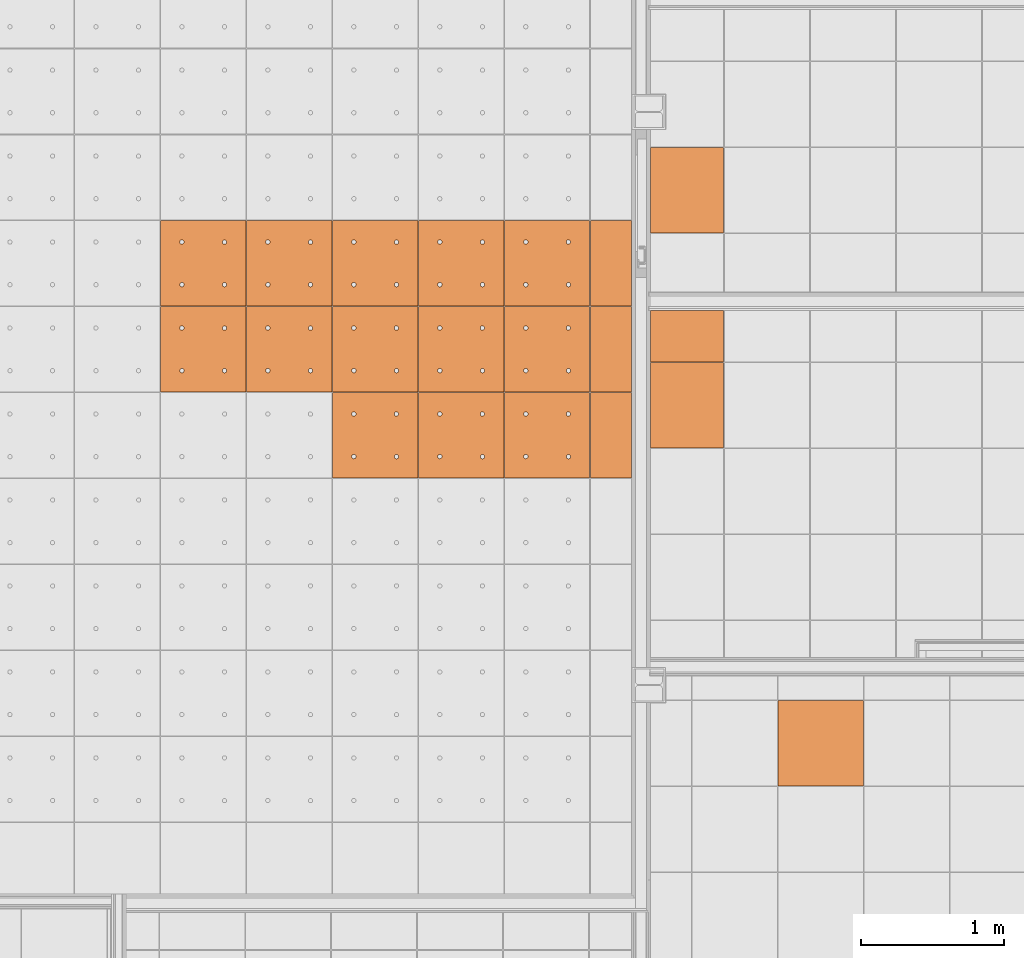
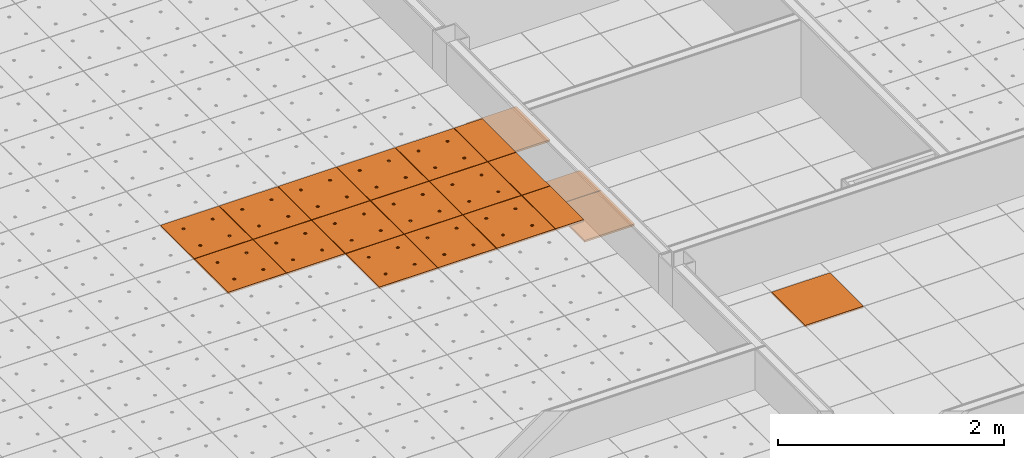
# One storey, part 283 of 338: 20 proxies, 4 elements without a shape of their own.
"""IFC2X3 building model written with IfcOpenShell, lengths in millimetres."""

from ifc_helpers import new_model, entity, si_unit, converted_unit, derived_unit, money_unit, direction, frame, origin_with_axes, place, context, subcontext, project, spatial, faceted_brep, source, transform, mapped, material, type_object, type_shapes, element, aggregate, save


model = new_model("IFC2X3")

# Units and contexts
model_context = context("Model", 3, precision=0.01, world=origin_with_axes(), true_north=direction((0.0, 1.0)))
plan_context = context("Plan", 3, precision=0.01, world=origin_with_axes(), true_north=direction((0.0, 1.0)))
body_context = subcontext(model_context, "Body", "Model", "MODEL_VIEW")
ifc_project = project(units=[si_unit("LENGTHUNIT", "METRE", prefix="MILLI"), si_unit("AREAUNIT", "SQUARE_METRE"), si_unit("VOLUMEUNIT", "CUBIC_METRE"), converted_unit("PLANEANGLEUNIT", "DEGREE", entity("IfcPlaneAngleMeasure", 0.0174532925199), si_unit("PLANEANGLEUNIT", "RADIAN"), dimensions=[0, 0, 0, 0, 0, 0, 0]), money_unit("EUR"), converted_unit("TIMEUNIT", "Year", entity("IfcTimeMeasure", 31556926.0), si_unit("TIMEUNIT", "SECOND"), dimensions=[0, 0, 1, 0, 0, 0, 0]), si_unit("MASSUNIT", "GRAM", prefix="KILO"), si_unit("THERMODYNAMICTEMPERATUREUNIT", "DEGREE_CELSIUS"), si_unit("LUMINOUSINTENSITYUNIT", "LUMEN"), si_unit("ENERGYUNIT", "JOULE", prefix="MEGA"), derived_unit("THERMALCONDUCTANCEUNIT", [(si_unit("POWERUNIT", "WATT"), 1), (si_unit("LENGTHUNIT", "METRE"), -1), (si_unit("THERMODYNAMICTEMPERATUREUNIT", "KELVIN"), -1)]), derived_unit("SPECIFICHEATCAPACITYUNIT", [(si_unit("ENERGYUNIT", "JOULE"), 1), (si_unit("MASSUNIT", "GRAM", prefix="KILO"), -1), (si_unit("THERMODYNAMICTEMPERATUREUNIT", "KELVIN"), -1)]), derived_unit("MASSDENSITYUNIT", [(si_unit("MASSUNIT", "GRAM", prefix="KILO"), 1), (si_unit("VOLUMEUNIT", "CUBIC_METRE"), -1)])], contexts=[model_context, plan_context])

# Site, building, storey
site_placement = place(None, origin_with_axes())
site = spatial("IfcSite", under=ifc_project, at=site_placement, Name="Fortuinstraat Woensdrecht", CompositionType="ELEMENT")
building_placement = place(site_placement, origin_with_axes())
building = spatial("IfcBuilding", under=site, at=building_placement, Name="IKC Fortuna", CompositionType="ELEMENT")
storey_placement = place(building_placement, origin_with_axes())
storey = spatial("IfcBuildingStorey", under=building, at=storey_placement, Name="00 begane grond", CompositionType="ELEMENT", Elevation=0.0)

# Covering, proxies
covering_type = type_object("IfcCoveringType", Name="Curtain Wall Type", PredefinedType="CEILING")
covering_1_placement = place(storey_placement, frame((15059.4416165, 34009.703821, 3210.0), z_axis=(0.0, 0.0, 1.0), x_axis=(1.0, 0.0, 0.0)))
covering_1 = element("IfcCovering", 1, at=covering_1_placement, inside=storey, type_object=covering_type, Name="45_Plafondafwerking_P01", PredefinedType="CEILING")
ifc_material = material(Name="Gipsplaat")
building_element_proxy_type_1 = type_object("IfcBuildingElementProxyType", Name="Distinct Panel 600 x 600 x 20", PredefinedType="NOTDEFINED")
shared_shape_1 = source(origin_with_axes(), body_context, "Body", "Brep", [
    faceted_brep([(2.49999999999, 2.49999999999, -10.0), (300.0, 2.49999999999, -10.0), (300.0, 2.49999999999, 10.0), (2.49999999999, 2.49999999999, 10.0), (2.49999999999, 300.0, -10.0), (2.49999999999, 597.5, -10.0), (300.0, 597.5, -10.0), (597.5, 597.5, -10.0), (597.5, 300.0, -10.0), (597.5, 2.49999999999, -10.0), (166.25, 450.06232995, -10.0), (165.79423259, 452.64711538, -10.0), (164.896546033, 455.11348892, -10.0), (163.58421608, 457.38651108, -10.0), (161.897117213, 459.39711721, -10.0), (159.886511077, 461.08421608, -10.0), (157.613488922, 462.39654603, -10.0), (155.147115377, 463.29423259, -10.0), (152.562329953, 463.75, -10.0), (149.937670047, 463.75, -10.0), (147.352884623, 463.29423259, -10.0), (144.886511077, 462.39654603, -10.0), (142.613488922, 461.08421608, -10.0), (140.602882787, 459.39711721, -10.0), (138.91578392, 457.38651108, -10.0), (137.603453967, 455.11348892, -10.0), (136.705767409, 452.64711538, -10.0), (136.25, 450.06232995, -10.0), (136.25, 448.75, -10.0), (136.25, 447.43767005, -10.0), (136.705767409, 444.85288462, -10.0), (137.603453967, 442.38651108, -10.0), (138.91578392, 440.11348892, -10.0), (140.602882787, 438.10288279, -10.0), (142.613488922, 436.41578392, -10.0), (144.886511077, 435.10345397, -10.0), (147.352884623, 434.20576741, -10.0), (149.937670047, 433.75, -10.0), (152.562329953, 433.75, -10.0), (155.147115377, 434.20576741, -10.0), (157.613488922, 435.10345397, -10.0), (159.886511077, 436.41578392, -10.0), (161.897117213, 438.10288279, -10.0), (163.58421608, 440.11348892, -10.0), (164.896546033, 442.38651108, -10.0), (165.79423259, 444.85288462, -10.0), (166.25, 447.43767005, -10.0), (463.75, 450.06232995, -10.0), (463.29423259, 452.64711538, -10.0), (462.396546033, 455.11348892, -10.0), (461.08421608, 457.38651108, -10.0), (459.397117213, 459.39711721, -10.0), (457.386511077, 461.08421608, -10.0), (455.113488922, 462.39654603, -10.0), (452.647115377, 463.29423259, -10.0), (450.062329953, 463.75, -10.0), (447.437670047, 463.75, -10.0), (444.852884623, 463.29423259, -10.0), (442.386511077, 462.39654603, -10.0), (440.113488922, 461.08421608, -10.0), (438.102882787, 459.39711721, -10.0), (436.41578392, 457.38651108, -10.0), (435.103453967, 455.11348892, -10.0), (434.205767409, 452.64711538, -10.0), (433.75, 450.06232995, -10.0), (433.75, 448.75, -10.0), (433.75, 447.43767005, -10.0), (434.205767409, 444.85288462, -10.0), (435.103453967, 442.38651108, -10.0), (436.41578392, 440.11348892, -10.0), (438.102882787, 438.10288279, -10.0), (440.113488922, 436.41578392, -10.0), (442.386511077, 435.10345397, -10.0), (444.852884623, 434.20576741, -10.0), (447.437670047, 433.75, -10.0), (450.062329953, 433.75, -10.0), (452.647115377, 434.20576741, -10.0), (455.113488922, 435.10345397, -10.0), (457.386511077, 436.41578392, -10.0), (459.397117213, 438.10288279, -10.0), (461.08421608, 440.11348892, -10.0), (462.396546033, 442.38651108, -10.0), (463.29423259, 444.85288462, -10.0), (463.75, 447.43767005, -10.0), (463.75, 152.56232995, -10.0), (463.29423259, 155.14711538, -10.0), (462.396546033, 157.61348892, -10.0), (461.08421608, 159.88651108, -10.0), (459.397117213, 161.89711721, -10.0), (457.386511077, 163.58421608, -10.0), (455.113488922, 164.89654603, -10.0), (452.647115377, 165.79423259, -10.0), (450.062329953, 166.25, -10.0), (447.437670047, 166.25, -10.0), (444.852884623, 165.79423259, -10.0), (442.386511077, 164.89654603, -10.0), (440.113488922, 163.58421608, -10.0), (438.102882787, 161.89711721, -10.0), (436.41578392, 159.88651108, -10.0), (435.103453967, 157.61348892, -10.0), (434.205767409, 155.14711538, -10.0), (433.75, 152.56232995, -10.0), (433.75, 151.25, -10.0), (433.75, 149.93767005, -10.0), (434.205767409, 147.35288462, -10.0), (435.103453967, 144.88651108, -10.0), (436.41578392, 142.61348892, -10.0), (438.102882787, 140.60288279, -10.0), (440.113488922, 138.91578392, -10.0), (442.386511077, 137.60345397, -10.0), (444.852884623, 136.70576741, -10.0), (447.437670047, 136.25, -10.0), (450.062329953, 136.25, -10.0), (452.647115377, 136.70576741, -10.0), (455.113488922, 137.60345397, -10.0), (457.386511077, 138.91578392, -10.0), (459.397117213, 140.60288279, -10.0), (461.08421608, 142.61348892, -10.0), (462.396546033, 144.88651108, -10.0), (463.29423259, 147.35288462, -10.0), (463.75, 149.93767005, -10.0), (166.25, 152.56232995, -10.0), (165.79423259, 155.14711538, -10.0), (164.896546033, 157.61348892, -10.0), (163.58421608, 159.88651108, -10.0), (161.897117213, 161.89711721, -10.0), (159.886511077, 163.58421608, -10.0), (157.613488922, 164.89654603, -10.0), (155.147115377, 165.79423259, -10.0), (152.562329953, 166.25, -10.0), (149.937670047, 166.25, -10.0), (147.352884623, 165.79423259, -10.0), (144.886511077, 164.89654603, -10.0), (142.613488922, 163.58421608, -10.0), (140.602882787, 161.89711721, -10.0), (138.91578392, 159.88651108, -10.0), (137.603453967, 157.61348892, -10.0), (136.705767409, 155.14711538, -10.0), (136.25, 152.56232995, -10.0), (136.25, 151.25, -10.0), (136.25, 149.93767005, -10.0), (136.705767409, 147.35288462, -10.0), (137.603453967, 144.88651108, -10.0), (138.91578392, 142.61348892, -10.0), (140.602882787, 140.60288279, -10.0), (142.613488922, 138.91578392, -10.0), (144.886511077, 137.60345397, -10.0), (147.352884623, 136.70576741, -10.0), (149.937670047, 136.25, -10.0), (152.562329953, 136.25, -10.0), (155.147115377, 136.70576741, -10.0), (157.613488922, 137.60345397, -10.0), (159.886511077, 138.91578392, -10.0), (161.897117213, 140.60288279, -10.0), (163.58421608, 142.61348892, -10.0), (164.896546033, 144.88651108, -10.0), (165.79423259, 147.35288462, -10.0), (166.25, 149.93767005, -10.0), (597.5, 2.49999999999, 10.0), (597.5, 300.0, 10.0), (597.5, 597.5, 10.0), (300.0, 597.5, 10.0), (2.49999999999, 597.5, 10.0), (2.49999999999, 300.0, 10.0), (166.25, 450.06232995, 10.0), (166.25, 447.43767005, 10.0), (165.79423259, 444.85288462, 10.0), (164.896546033, 442.38651108, 10.0), (163.58421608, 440.11348892, 10.0), (161.897117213, 438.10288279, 10.0), (159.886511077, 436.41578392, 10.0), (157.613488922, 435.10345397, 10.0), (155.147115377, 434.20576741, 10.0), (152.562329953, 433.75, 10.0), (149.937670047, 433.75, 10.0), (147.352884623, 434.20576741, 10.0), (144.886511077, 435.10345397, 10.0), (142.613488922, 436.41578392, 10.0), (140.602882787, 438.10288279, 10.0), (138.91578392, 440.11348892, 10.0), (137.603453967, 442.38651108, 10.0), (136.705767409, 444.85288462, 10.0), (136.25, 447.43767005, 10.0), (136.25, 448.75, 10.0), (136.25, 450.06232995, 10.0), (136.705767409, 452.64711538, 10.0), (137.603453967, 455.11348892, 10.0), (138.91578392, 457.38651108, 10.0), (140.602882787, 459.39711721, 10.0), (142.613488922, 461.08421608, 10.0), (144.886511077, 462.39654603, 10.0), (147.352884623, 463.29423259, 10.0), (149.937670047, 463.75, 10.0), (152.562329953, 463.75, 10.0), (155.147115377, 463.29423259, 10.0), (157.613488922, 462.39654603, 10.0), (159.886511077, 461.08421608, 10.0), (161.897117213, 459.39711721, 10.0), (163.58421608, 457.38651108, 10.0), (164.896546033, 455.11348892, 10.0), (165.79423259, 452.64711538, 10.0), (463.75, 450.06232995, 10.0), (463.75, 447.43767005, 10.0), (463.29423259, 444.85288462, 10.0), (462.396546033, 442.38651108, 10.0), (461.08421608, 440.11348892, 10.0), (459.397117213, 438.10288279, 10.0), (457.386511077, 436.41578392, 10.0), (455.113488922, 435.10345397, 10.0), (452.647115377, 434.20576741, 10.0), (450.062329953, 433.75, 10.0), (447.437670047, 433.75, 10.0), (444.852884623, 434.20576741, 10.0), (442.386511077, 435.10345397, 10.0), (440.113488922, 436.41578392, 10.0), (438.102882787, 438.10288279, 10.0), (436.41578392, 440.11348892, 10.0), (435.103453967, 442.38651108, 10.0), (434.205767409, 444.85288462, 10.0), (433.75, 447.43767005, 10.0), (433.75, 448.75, 10.0), (433.75, 450.06232995, 10.0), (434.205767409, 452.64711538, 10.0), (435.103453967, 455.11348892, 10.0), (436.41578392, 457.38651108, 10.0), (438.102882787, 459.39711721, 10.0), (440.113488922, 461.08421608, 10.0), (442.386511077, 462.39654603, 10.0), (444.852884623, 463.29423259, 10.0), (447.437670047, 463.75, 10.0), (450.062329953, 463.75, 10.0), (452.647115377, 463.29423259, 10.0), (455.113488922, 462.39654603, 10.0), (457.386511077, 461.08421608, 10.0), (459.397117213, 459.39711721, 10.0), (461.08421608, 457.38651108, 10.0), (462.396546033, 455.11348892, 10.0), (463.29423259, 452.64711538, 10.0), (463.75, 152.56232995, 10.0), (463.75, 149.93767005, 10.0), (463.29423259, 147.35288462, 10.0), (462.396546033, 144.88651108, 10.0), (461.08421608, 142.61348892, 10.0), (459.397117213, 140.60288279, 10.0), (457.386511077, 138.91578392, 10.0), (455.113488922, 137.60345397, 10.0), (452.647115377, 136.70576741, 10.0), (450.062329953, 136.25, 10.0), (447.437670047, 136.25, 10.0), (444.852884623, 136.70576741, 10.0), (442.386511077, 137.60345397, 10.0), (440.113488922, 138.91578392, 10.0), (438.102882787, 140.60288279, 10.0), (436.41578392, 142.61348892, 10.0), (435.103453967, 144.88651108, 10.0), (434.205767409, 147.35288462, 10.0), (433.75, 149.93767005, 10.0), (433.75, 151.25, 10.0), (433.75, 152.56232995, 10.0), (434.205767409, 155.14711538, 10.0), (435.103453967, 157.61348892, 10.0), (436.41578392, 159.88651108, 10.0), (438.102882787, 161.89711721, 10.0), (440.113488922, 163.58421608, 10.0), (442.386511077, 164.89654603, 10.0), (444.852884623, 165.79423259, 10.0), (447.437670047, 166.25, 10.0), (450.062329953, 166.25, 10.0), (452.647115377, 165.79423259, 10.0), (455.113488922, 164.89654603, 10.0), (457.386511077, 163.58421608, 10.0), (459.397117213, 161.89711721, 10.0), (461.08421608, 159.88651108, 10.0), (462.396546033, 157.61348892, 10.0), (463.29423259, 155.14711538, 10.0), (166.25, 152.56232995, 10.0), (166.25, 149.93767005, 10.0), (165.79423259, 147.35288462, 10.0), (164.896546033, 144.88651108, 10.0), (163.58421608, 142.61348892, 10.0), (161.897117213, 140.60288279, 10.0), (159.886511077, 138.91578392, 10.0), (157.613488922, 137.60345397, 10.0), (155.147115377, 136.70576741, 10.0), (152.562329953, 136.25, 10.0), (149.937670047, 136.25, 10.0), (147.352884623, 136.70576741, 10.0), (144.886511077, 137.60345397, 10.0), (142.613488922, 138.91578392, 10.0), (140.602882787, 140.60288279, 10.0), (138.91578392, 142.61348892, 10.0), (137.603453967, 144.88651108, 10.0), (136.705767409, 147.35288462, 10.0), (136.25, 149.93767005, 10.0), (136.25, 151.25, 10.0), (136.25, 152.56232995, 10.0), (136.705767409, 155.14711538, 10.0), (137.603453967, 157.61348892, 10.0), (138.91578392, 159.88651108, 10.0), (140.602882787, 161.89711721, 10.0), (142.613488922, 163.58421608, 10.0), (144.886511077, 164.89654603, 10.0), (147.352884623, 165.79423259, 10.0), (149.937670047, 166.25, 10.0), (152.562329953, 166.25, 10.0), (155.147115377, 165.79423259, 10.0), (157.613488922, 164.89654603, 10.0), (159.886511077, 163.58421608, 10.0), (161.897117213, 161.89711721, 10.0), (163.58421608, 159.88651108, 10.0), (164.896546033, 157.61348892, 10.0), (165.79423259, 155.14711538, 10.0)], [[[0, 1, 2, 3]], [[0, 4, 5, 6, 7, 8, 9, 1], [10, 11, 12, 13, 14, 15, 16, 17, 18, 19, 20, 21, 22, 23, 24, 25, 26, 27, 28, 29, 30, 31, 32, 33, 34, 35, 36, 37, 38, 39, 40, 41, 42, 43, 44, 45, 46], [47, 48, 49, 50, 51, 52, 53, 54, 55, 56, 57, 58, 59, 60, 61, 62, 63, 64, 65, 66, 67, 68, 69, 70, 71, 72, 73, 74, 75, 76, 77, 78, 79, 80, 81, 82, 83], [84, 85, 86, 87, 88, 89, 90, 91, 92, 93, 94, 95, 96, 97, 98, 99, 100, 101, 102, 103, 104, 105, 106, 107, 108, 109, 110, 111, 112, 113, 114, 115, 116, 117, 118, 119, 120], [121, 122, 123, 124, 125, 126, 127, 128, 129, 130, 131, 132, 133, 134, 135, 136, 137, 138, 139, 140, 141, 142, 143, 144, 145, 146, 147, 148, 149, 150, 151, 152, 153, 154, 155, 156, 157]], [[1, 9, 158, 2]], [[3, 2, 158, 159, 160, 161, 162, 163], [164, 165, 166, 167, 168, 169, 170, 171, 172, 173, 174, 175, 176, 177, 178, 179, 180, 181, 182, 183, 184, 185, 186, 187, 188, 189, 190, 191, 192, 193, 194, 195, 196, 197, 198, 199, 200], [201, 202, 203, 204, 205, 206, 207, 208, 209, 210, 211, 212, 213, 214, 215, 216, 217, 218, 219, 220, 221, 222, 223, 224, 225, 226, 227, 228, 229, 230, 231, 232, 233, 234, 235, 236, 237], [238, 239, 240, 241, 242, 243, 244, 245, 246, 247, 248, 249, 250, 251, 252, 253, 254, 255, 256, 257, 258, 259, 260, 261, 262, 263, 264, 265, 266, 267, 268, 269, 270, 271, 272, 273, 274], [275, 276, 277, 278, 279, 280, 281, 282, 283, 284, 285, 286, 287, 288, 289, 290, 291, 292, 293, 294, 295, 296, 297, 298, 299, 300, 301, 302, 303, 304, 305, 306, 307, 308, 309, 310, 311]], [[4, 0, 3, 163]], [[5, 4, 163, 162]], [[6, 5, 162, 161]], [[7, 6, 161, 160]], [[8, 7, 160, 159]], [[9, 8, 159, 158]], [[11, 10, 164, 200]], [[12, 11, 200, 199]], [[13, 12, 199, 198]], [[14, 13, 198, 197]], [[15, 14, 197, 196]], [[16, 15, 196, 195]], [[17, 16, 195, 194]], [[18, 17, 194, 193]], [[19, 18, 193, 192]], [[20, 19, 192, 191]], [[21, 20, 191, 190]], [[22, 21, 190, 189]], [[23, 22, 189, 188]], [[24, 23, 188, 187]], [[25, 24, 187, 186]], [[26, 25, 186, 185]], [[27, 26, 185, 184]], [[28, 27, 184, 183]], [[29, 28, 183, 182]], [[30, 29, 182, 181]], [[31, 30, 181, 180]], [[32, 31, 180, 179]], [[33, 32, 179, 178]], [[34, 33, 178, 177]], [[35, 34, 177, 176]], [[36, 35, 176, 175]], [[37, 36, 175, 174]], [[38, 37, 174, 173]], [[39, 38, 173, 172]], [[40, 39, 172, 171]], [[41, 40, 171, 170]], [[42, 41, 170, 169]], [[43, 42, 169, 168]], [[44, 43, 168, 167]], [[45, 44, 167, 166]], [[46, 45, 166, 165]], [[10, 46, 165, 164]], [[48, 47, 201, 237]], [[49, 48, 237, 236]], [[50, 49, 236, 235]], [[51, 50, 235, 234]], [[52, 51, 234, 233]], [[53, 52, 233, 232]], [[54, 53, 232, 231]], [[55, 54, 231, 230]], [[56, 55, 230, 229]], [[57, 56, 229, 228]], [[58, 57, 228, 227]], [[59, 58, 227, 226]], [[60, 59, 226, 225]], [[61, 60, 225, 224]], [[62, 61, 224, 223]], [[63, 62, 223, 222]], [[64, 63, 222, 221]], [[65, 64, 221, 220]], [[66, 65, 220, 219]], [[67, 66, 219, 218]], [[68, 67, 218, 217]], [[69, 68, 217, 216]], [[70, 69, 216, 215]], [[71, 70, 215, 214]], [[72, 71, 214, 213]], [[73, 72, 213, 212]], [[74, 73, 212, 211]], [[75, 74, 211, 210]], [[76, 75, 210, 209]], [[77, 76, 209, 208]], [[78, 77, 208, 207]], [[79, 78, 207, 206]], [[80, 79, 206, 205]], [[81, 80, 205, 204]], [[82, 81, 204, 203]], [[83, 82, 203, 202]], [[47, 83, 202, 201]], [[85, 84, 238, 274]], [[86, 85, 274, 273]], [[87, 86, 273, 272]], [[88, 87, 272, 271]], [[89, 88, 271, 270]], [[90, 89, 270, 269]], [[91, 90, 269, 268]], [[92, 91, 268, 267]], [[93, 92, 267, 266]], [[94, 93, 266, 265]], [[95, 94, 265, 264]], [[96, 95, 264, 263]], [[97, 96, 263, 262]], [[98, 97, 262, 261]], [[99, 98, 261, 260]], [[100, 99, 260, 259]], [[101, 100, 259, 258]], [[102, 101, 258, 257]], [[103, 102, 257, 256]], [[104, 103, 256, 255]], [[105, 104, 255, 254]], [[106, 105, 254, 253]], [[107, 106, 253, 252]], [[108, 107, 252, 251]], [[109, 108, 251, 250]], [[110, 109, 250, 249]], [[111, 110, 249, 248]], [[112, 111, 248, 247]], [[113, 112, 247, 246]], [[114, 113, 246, 245]], [[115, 114, 245, 244]], [[116, 115, 244, 243]], [[117, 116, 243, 242]], [[118, 117, 242, 241]], [[119, 118, 241, 240]], [[120, 119, 240, 239]], [[84, 120, 239, 238]], [[122, 121, 275, 311]], [[123, 122, 311, 310]], [[124, 123, 310, 309]], [[125, 124, 309, 308]], [[126, 125, 308, 307]], [[127, 126, 307, 306]], [[128, 127, 306, 305]], [[129, 128, 305, 304]], [[130, 129, 304, 303]], [[131, 130, 303, 302]], [[132, 131, 302, 301]], [[133, 132, 301, 300]], [[134, 133, 300, 299]], [[135, 134, 299, 298]], [[136, 135, 298, 297]], [[137, 136, 297, 296]], [[138, 137, 296, 295]], [[139, 138, 295, 294]], [[140, 139, 294, 293]], [[141, 140, 293, 292]], [[142, 141, 292, 291]], [[143, 142, 291, 290]], [[144, 143, 290, 289]], [[145, 144, 289, 288]], [[146, 145, 288, 287]], [[147, 146, 287, 286]], [[148, 147, 286, 285]], [[149, 148, 285, 284]], [[150, 149, 284, 283]], [[151, 150, 283, 282]], [[152, 151, 282, 281]], [[153, 152, 281, 280]], [[154, 153, 280, 279]], [[155, 154, 279, 278]], [[156, 155, 278, 277]], [[157, 156, 277, 276]], [[121, 157, 276, 275]]]),
])
proxy_1_placement = place(covering_1_placement, frame((4800.0, -3000.0, 0.0), z_axis=(0.0, 0.0, 1.0), x_axis=(1.0, 0.0, 0.0)))
proxy_1 = element("IfcBuildingElementProxy", 2, at=proxy_1_placement, type_object=building_element_proxy_type_1, material=ifc_material, Name="__Panel-D", context=body_context, shape_type="MappedRepresentation", body=[
    mapped(shared_shape_1, transform((300.0, 300.0, 0.0), x_axis=(-1.0, 0.0, 0.0), y_axis=(0.0, -1.0, 0.0), z_axis=(0.0, 0.0, 1.0))),
])
proxy_2_placement = place(covering_1_placement, frame((4200.0, -3000.0, 0.0), z_axis=(0.0, 0.0, 1.0), x_axis=(1.0, 0.0, 0.0)))
proxy_2 = element("IfcBuildingElementProxy", 3, at=proxy_2_placement, type_object=building_element_proxy_type_1, material=ifc_material, Name="__Panel-D", context=body_context, shape_type="MappedRepresentation", body=[
    mapped(shared_shape_1, transform((300.0, 300.0, 0.0), x_axis=(-1.0, 0.0, 0.0), y_axis=(0.0, -1.0, 0.0), z_axis=(0.0, 0.0, 1.0))),
])
proxy_3_placement = place(covering_1_placement, frame((3600.0, -3000.0, 0.0), z_axis=(0.0, 0.0, 1.0), x_axis=(1.0, 0.0, 0.0)))
proxy_3 = element("IfcBuildingElementProxy", 4, at=proxy_3_placement, type_object=building_element_proxy_type_1, material=ifc_material, Name="__Panel-D", context=body_context, shape_type="MappedRepresentation", body=[
    mapped(shared_shape_1, transform((300.0, 300.0, 0.0), x_axis=(-1.0, 0.0, 0.0), y_axis=(0.0, -1.0, 0.0), z_axis=(0.0, 0.0, 1.0))),
])
proxy_4_placement = place(covering_1_placement, frame((3000.0, -3000.0, 0.0), z_axis=(0.0, 0.0, 1.0), x_axis=(1.0, 0.0, 0.0)))
proxy_4 = element("IfcBuildingElementProxy", 5, at=proxy_4_placement, type_object=building_element_proxy_type_1, material=ifc_material, Name="__Panel-D", context=body_context, shape_type="MappedRepresentation", body=[
    mapped(shared_shape_1, transform((300.0, 300.0, 0.0), x_axis=(-1.0, 0.0, 0.0), y_axis=(0.0, -1.0, 0.0), z_axis=(0.0, 0.0, 1.0))),
])
proxy_5_placement = place(covering_1_placement, frame((2400.0, -3000.0, 0.0), z_axis=(0.0, 0.0, 1.0), x_axis=(1.0, 0.0, 0.0)))
proxy_5 = element("IfcBuildingElementProxy", 6, at=proxy_5_placement, type_object=building_element_proxy_type_1, material=ifc_material, Name="__Panel-D", context=body_context, shape_type="MappedRepresentation", body=[
    mapped(shared_shape_1, transform((300.0, 300.0, 0.0), x_axis=(-1.0, 0.0, 0.0), y_axis=(0.0, -1.0, 0.0), z_axis=(0.0, 0.0, 1.0))),
])
proxy_6_placement = place(covering_1_placement, frame((2400.0, -3600.0, 0.0), z_axis=(0.0, 0.0, 1.0), x_axis=(1.0, 0.0, 0.0)))
proxy_6 = element("IfcBuildingElementProxy", 7, at=proxy_6_placement, type_object=building_element_proxy_type_1, material=ifc_material, Name="__Panel-D", context=body_context, shape_type="MappedRepresentation", body=[
    mapped(shared_shape_1, transform((300.0, 300.0, 0.0), x_axis=(-1.0, 0.0, 0.0), y_axis=(0.0, -1.0, 0.0), z_axis=(0.0, 0.0, 1.0))),
])
proxy_7_placement = place(covering_1_placement, frame((4800.0, -3600.0, 0.0), z_axis=(0.0, 0.0, 1.0), x_axis=(1.0, 0.0, 0.0)))
proxy_7 = element("IfcBuildingElementProxy", 8, at=proxy_7_placement, type_object=building_element_proxy_type_1, material=ifc_material, Name="__Panel-D", context=body_context, shape_type="MappedRepresentation", body=[
    mapped(shared_shape_1, transform((300.0, 300.0, 0.0), x_axis=(-1.0, 0.0, 0.0), y_axis=(0.0, -1.0, 0.0), z_axis=(0.0, 0.0, 1.0))),
])
proxy_8_placement = place(covering_1_placement, frame((4800.0, -4200.0, 0.0), z_axis=(0.0, 0.0, 1.0), x_axis=(1.0, 0.0, 0.0)))
proxy_8 = element("IfcBuildingElementProxy", 9, at=proxy_8_placement, type_object=building_element_proxy_type_1, material=ifc_material, Name="__Panel-D", context=body_context, shape_type="MappedRepresentation", body=[
    mapped(shared_shape_1, transform((300.0, 300.0, 0.0), x_axis=(-1.0, 0.0, 0.0), y_axis=(0.0, -1.0, 0.0), z_axis=(0.0, 0.0, 1.0))),
])
proxy_9_placement = place(covering_1_placement, frame((4200.0, -3600.0, 0.0), z_axis=(0.0, 0.0, 1.0), x_axis=(1.0, 0.0, 0.0)))
proxy_9 = element("IfcBuildingElementProxy", 10, at=proxy_9_placement, type_object=building_element_proxy_type_1, material=ifc_material, Name="__Panel-D", context=body_context, shape_type="MappedRepresentation", body=[
    mapped(shared_shape_1, transform((300.0, 300.0, 0.0), x_axis=(-1.0, 0.0, 0.0), y_axis=(0.0, -1.0, 0.0), z_axis=(0.0, 0.0, 1.0))),
])
proxy_10_placement = place(covering_1_placement, frame((4200.0, -4200.0, 0.0), z_axis=(0.0, 0.0, 1.0), x_axis=(1.0, 0.0, 0.0)))
proxy_10 = element("IfcBuildingElementProxy", 11, at=proxy_10_placement, type_object=building_element_proxy_type_1, material=ifc_material, Name="__Panel-D", context=body_context, shape_type="MappedRepresentation", body=[
    mapped(shared_shape_1, transform((300.0, 300.0, 0.0), x_axis=(-1.0, 0.0, 0.0), y_axis=(0.0, -1.0, 0.0), z_axis=(0.0, 0.0, 1.0))),
])
proxy_11_placement = place(covering_1_placement, frame((3600.0, -3600.0, 0.0), z_axis=(0.0, 0.0, 1.0), x_axis=(1.0, 0.0, 0.0)))
proxy_11 = element("IfcBuildingElementProxy", 12, at=proxy_11_placement, type_object=building_element_proxy_type_1, material=ifc_material, Name="__Panel-D", context=body_context, shape_type="MappedRepresentation", body=[
    mapped(shared_shape_1, transform((300.0, 300.0, 0.0), x_axis=(-1.0, 0.0, 0.0), y_axis=(0.0, -1.0, 0.0), z_axis=(0.0, 0.0, 1.0))),
])
proxy_12_placement = place(covering_1_placement, frame((3600.0, -4200.0, 0.0), z_axis=(0.0, 0.0, 1.0), x_axis=(1.0, 0.0, 0.0)))
proxy_12 = element("IfcBuildingElementProxy", 13, at=proxy_12_placement, type_object=building_element_proxy_type_1, material=ifc_material, Name="__Panel-D", context=body_context, shape_type="MappedRepresentation", body=[
    mapped(shared_shape_1, transform((300.0, 300.0, 0.0), x_axis=(-1.0, 0.0, 0.0), y_axis=(0.0, -1.0, 0.0), z_axis=(0.0, 0.0, 1.0))),
])
proxy_13_placement = place(covering_1_placement, frame((3000.0, -3600.0, 0.0), z_axis=(0.0, 0.0, 1.0), x_axis=(1.0, 0.0, 0.0)))
proxy_13 = element("IfcBuildingElementProxy", 14, at=proxy_13_placement, type_object=building_element_proxy_type_1, material=ifc_material, Name="__Panel-D", context=body_context, shape_type="MappedRepresentation", body=[
    mapped(shared_shape_1, transform((300.0, 300.0, 0.0), x_axis=(-1.0, 0.0, 0.0), y_axis=(0.0, -1.0, 0.0), z_axis=(0.0, 0.0, 1.0))),
])
building_element_proxy_type_2 = type_object("IfcBuildingElementProxyType", Name="Main Panel 292 x 600 x 20", PredefinedType="NOTDEFINED")
shared_shape_2 = source(origin_with_axes(), body_context, "Body", "Brep", [
    faceted_brep([(310.0065893, 2.5, -10.0), (597.5, 2.49999999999, -10.0), (597.5, 2.49999999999, 10.0), (310.0065893, 2.5, 10.0), (310.0065893, 597.5, -10.0), (597.5, 597.5, -10.0), (597.5, 597.5, 10.0), (310.0065893, 597.5, 10.0)], [[[0, 1, 2, 3]], [[0, 4, 5, 1]], [[1, 5, 6, 2]], [[3, 2, 6, 7]], [[4, 0, 3, 7]], [[5, 4, 7, 6]]]),
])
proxy_14_placement = place(covering_1_placement, frame((5246.24670484, -3600.0, 0.0), z_axis=(0.0, 0.0, 1.0), x_axis=(1.0, 0.0, 0.0)))
proxy_14 = element("IfcBuildingElementProxy", 15, at=proxy_14_placement, type_object=building_element_proxy_type_2, material=ifc_material, Name="__Panel-D", context=body_context, shape_type="MappedRepresentation", body=[
    mapped(shared_shape_2, transform((453.753295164, 300.0, 0.0), x_axis=(-1.0, 0.0, 0.0), y_axis=(0.0, -1.0, 0.0), z_axis=(0.0, 0.0, 1.0))),
])
proxy_15_placement = place(covering_1_placement, frame((5246.24670484, -4200.0, 0.0), z_axis=(0.0, 0.0, 1.0), x_axis=(1.0, 0.0, 0.0)))
proxy_15 = element("IfcBuildingElementProxy", 16, at=proxy_15_placement, type_object=building_element_proxy_type_2, material=ifc_material, Name="__Panel-D", context=body_context, shape_type="MappedRepresentation", body=[
    mapped(shared_shape_2, transform((453.753295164, 300.0, 0.0), x_axis=(-1.0, 0.0, 0.0), y_axis=(0.0, -1.0, 0.0), z_axis=(0.0, 0.0, 1.0))),
])
shared_shape_3 = source(origin_with_axes(), body_context, "Body", "Brep", [
    faceted_brep([(310.00672341, 2.5, -10.0), (597.5, 2.49999999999, -10.0), (597.5, 2.49999999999, 10.0), (310.00672341, 2.5, 10.0), (310.00672341, 597.5, -10.0), (597.5, 597.5, -10.0), (597.5, 597.5, 10.0), (310.00672341, 597.5, 10.0)], [[[0, 1, 2, 3]], [[0, 4, 5, 1]], [[1, 5, 6, 2]], [[3, 2, 6, 7]], [[4, 0, 3, 7]], [[5, 4, 7, 6]]]),
])
type_shapes(building_element_proxy_type_2, [shared_shape_2, shared_shape_3])
proxy_16_placement = place(covering_1_placement, frame((5246.24670484, -3000.0, 0.0), z_axis=(0.0, 0.0, 1.0), x_axis=(1.0, 0.0, 0.0)))
proxy_16 = element("IfcBuildingElementProxy", 17, at=proxy_16_placement, type_object=building_element_proxy_type_2, material=ifc_material, Name="__Panel-D", context=body_context, shape_type="MappedRepresentation", body=[
    mapped(shared_shape_3, transform((453.753295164, 300.0, 0.0), x_axis=(-1.0, 0.0, 0.0), y_axis=(0.0, -1.0, 0.0), z_axis=(0.0, 0.0, 1.0))),
])
aggregate(covering_1, [proxy_14, proxy_15, proxy_1, proxy_2, proxy_3, proxy_4, proxy_5, proxy_6, proxy_16, proxy_7, proxy_8, proxy_9, proxy_10, proxy_11, proxy_12, proxy_13])

# Covering, proxy
covering_2_placement = place(storey_placement, frame((21169.4446171, 27661.0834994, 3010.0), z_axis=(0.0, 0.0, 1.0), x_axis=(1.0, 0.0, 0.0)))
covering_2 = element("IfcCovering", 18, at=covering_2_placement, inside=storey, type_object=covering_type, Name="45_Plafondafwerking_P04", PredefinedType="CEILING")
shared_shape_4 = source(origin_with_axes(), body_context, "Body", "Brep", [
    faceted_brep([(-2.5000069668, 2.4999963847, -10.0), (-2.5000069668, 2.4999963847, 10.0), (-597.499995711, 2.50000275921, 10.0), (-597.499995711, 2.50000275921, -10.0), (-2.50000214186, 597.499967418, -10.0), (-2.50000214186, 597.499967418, 10.0), (-597.499990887, 597.499973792, 10.0), (-597.499990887, 597.499973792, -10.0)], [[[0, 1, 2, 3]], [[4, 5, 1, 0]], [[1, 5, 6, 2]], [[3, 2, 6, 7]], [[0, 3, 7, 4]], [[7, 6, 5, 4]]]),
])
type_shapes(building_element_proxy_type_1, [shared_shape_1, shared_shape_4])
proxy_17_placement = place(covering_2_placement, frame((600.0, 0.0, 0.0), z_axis=(0.0, 0.0, 1.0), x_axis=(1.0, 0.0, 0.0)))
proxy_17 = element("IfcBuildingElementProxy", 19, at=proxy_17_placement, type_object=building_element_proxy_type_1, material=ifc_material, Name="__Panel-D", context=body_context, shape_type="MappedRepresentation", body=[
    mapped(shared_shape_4, transform((-300.0, 300.0, 0.0), x_axis=(-1.0, 0.0, 0.0), y_axis=(0.0, -1.0, 0.0), z_axis=(0.0, 0.0, 1.0))),
])
aggregate(covering_2, [proxy_17])

covering_3_placement = place(storey_placement, frame((22594.4446507, 31013.6071773, 2810.0), z_axis=(0.0, 0.0, 1.0), x_axis=(1.0, 0.0, 0.0)))
covering_3 = element("IfcCovering", 20, at=covering_3_placement, inside=storey, type_object=covering_type, Name="45_Plafondafwerking_P02", PredefinedType="CEILING")
building_element_proxy_type_3 = type_object("IfcBuildingElementProxyType", Name="Distinct Panel 518 x 600 x 20", PredefinedType="NOTDEFINED")
shared_shape_5 = source(origin_with_axes(), body_context, "Body", "Brep", [
    faceted_brep([(2.49999714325, 2.5, -10.0), (515.009608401, 2.49999999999, -10.0), (515.009608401, 2.49999999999, 10.0), (2.49999714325, 2.5, 10.0), (2.49999714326, 597.5, -10.0), (515.009608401, 597.5, -10.0), (515.009608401, 597.5, 10.0), (2.49999714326, 597.5, 10.0)], [[[0, 1, 2, 3]], [[0, 4, 5, 1]], [[1, 5, 6, 2]], [[3, 2, 6, 7]], [[4, 0, 3, 7]], [[5, 4, 7, 6]]]),
])
type_shapes(building_element_proxy_type_3, [shared_shape_5])
proxy_18_placement = place(covering_3_placement, frame((-1758.7548466, 506.204592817, 0.0), z_axis=(0.0, 0.0, 1.0), x_axis=(1.0, 0.0, 0.0)))
proxy_18 = element("IfcBuildingElementProxy", 21, at=proxy_18_placement, type_object=building_element_proxy_type_3, material=ifc_material, Name="__Panel-D", context=body_context, shape_type="MappedRepresentation", body=[
    mapped(shared_shape_5, transform((258.754846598, 300.0, 0.0), x_axis=(-1.0, 0.0, 0.0), y_axis=(0.0, -1.0, 0.0), z_axis=(0.0, 0.0, 1.0))),
])
aggregate(covering_3, [proxy_18])

# Covering, proxies
covering_4_placement = place(storey_placement, frame((20835.6898058, 28819.9024925, 2810.0), z_axis=(0.0, 0.0, 1.0), x_axis=(1.0, 0.0, 0.0)))
covering_4 = element("IfcCovering", 22, at=covering_4_placement, inside=storey, type_object=covering_type, Name="45_Plafondafwerking_P02", PredefinedType="CEILING")
proxy_19_placement = place(covering_4_placement, frame((0.0, 1200.0, 0.0), z_axis=(0.0, 0.0, 1.0), x_axis=(1.0, 0.0, 0.0)))
proxy_19 = element("IfcBuildingElementProxy", 23, at=proxy_19_placement, type_object=building_element_proxy_type_3, material=ifc_material, Name="__Panel-D", context=body_context, shape_type="MappedRepresentation", body=[
    mapped(shared_shape_5, transform((258.754846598, 300.0, 0.0), x_axis=(-1.0, 0.0, 0.0), y_axis=(0.0, -1.0, 0.0), z_axis=(0.0, 0.0, 1.0))),
])
building_element_proxy_type_4 = type_object("IfcBuildingElementProxyType", Name="Distinct Panel 518 x 363 x 20", PredefinedType="NOTDEFINED")
shared_shape_6 = source(origin_with_axes(), body_context, "Body", "Brep", [
    faceted_brep([(2.49999977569, 239.999928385, -10.0), (515.009693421, 239.999959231, -10.0), (515.009693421, 239.999959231, 10.0), (2.49999977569, 239.999928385, 10.0), (2.4999997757, 597.500027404, -10.0), (515.009693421, 597.500027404, -10.0), (515.009693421, 597.500027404, 10.0), (2.4999997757, 597.500027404, 10.0)], [[[0, 1, 2, 3]], [[0, 4, 5, 1]], [[1, 5, 6, 2]], [[3, 2, 6, 7]], [[4, 0, 3, 7]], [[5, 4, 7, 6]]]),
])
type_shapes(building_element_proxy_type_4, [shared_shape_6])
proxy_20_placement = place(covering_4_placement, frame((0.0, 1681.25004021, 0.0), z_axis=(0.0, 0.0, 1.0), x_axis=(1.0, 0.0, 0.0)))
proxy_20 = element("IfcBuildingElementProxy", 24, at=proxy_20_placement, type_object=building_element_proxy_type_4, material=ifc_material, Name="__Panel-D", context=body_context, shape_type="MappedRepresentation", body=[
    mapped(shared_shape_6, transform((258.754846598, 418.74998697, 0.0), x_axis=(-1.0, 0.0, 0.0), y_axis=(0.0, -1.0, 0.0), z_axis=(0.0, 0.0, 1.0))),
])
aggregate(covering_4, [proxy_20, proxy_19])

save(model, "model.ifc")
